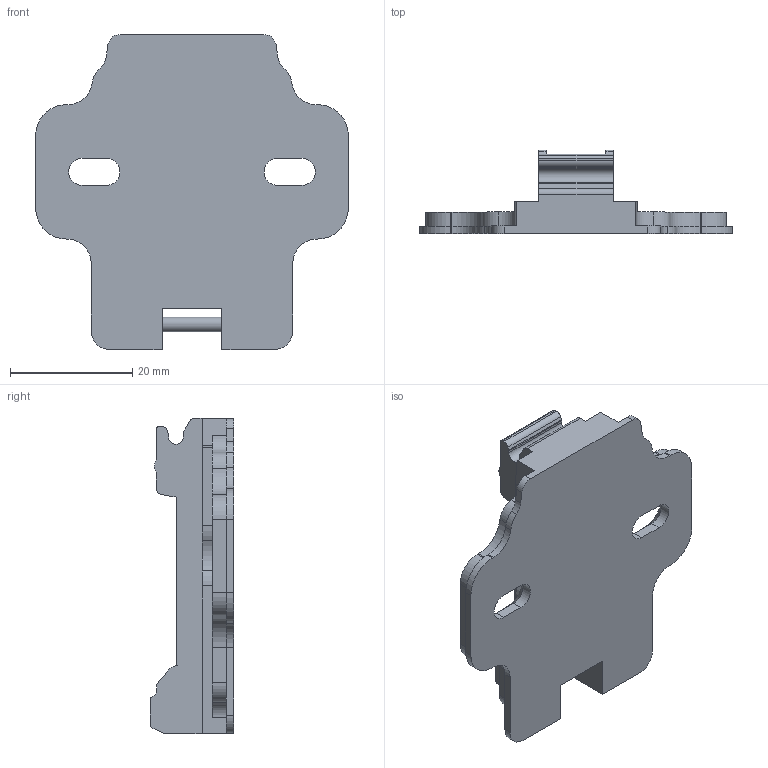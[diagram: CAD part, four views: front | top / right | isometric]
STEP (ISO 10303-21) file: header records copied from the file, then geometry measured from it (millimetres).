
FILE_DESCRIPTION (( 'STEP AP203' ), '1' );
FILE_NAME ('81H40AQ.STEP', '2020-02-12T02:45:39', ( 'Windows 蚚誧' ), ( '' ), 'SwSTEP 2.0', 'SolidWorks 2012', '' );
FILE_SCHEMA (( 'CONFIG_CONTROL_DESIGN' ));
Length unit declared in the file: millimetre
Products named in the file (1): 81H40AQ
Bounding box: 51.2 x 13.7 x 51.6 mm (x, y, z)
Volume: 10779.9 mm3; surface area: 5927.2 mm2
Topology: 1 solids, 1 shells, 144 faces, 416 edges, 274 vertices
Faces by surface type: plane 76, cylinder 64, cone 4
Entity records: 4841 total; most frequent: DIRECTION 838, CARTESIAN_POINT 835, ORIENTED_EDGE 832, EDGE_CURVE 416, VECTOR 284, LINE 284, AXIS2_PLACEMENT_3D 277, VERTEX_POINT 274
